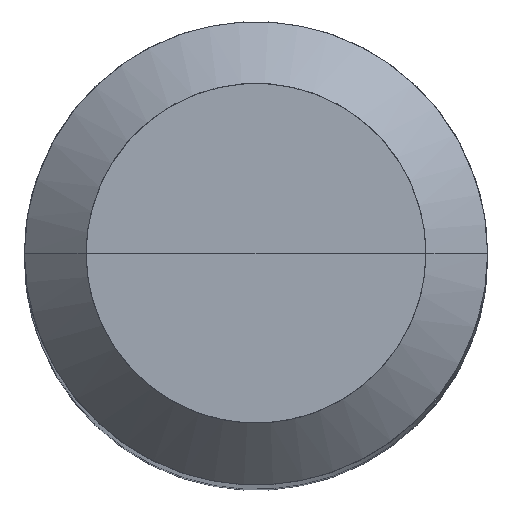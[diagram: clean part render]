
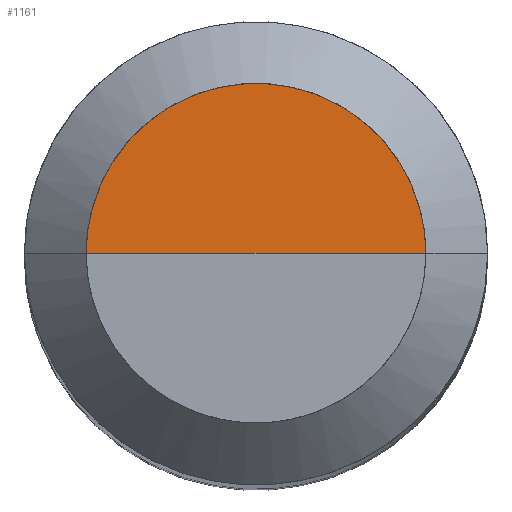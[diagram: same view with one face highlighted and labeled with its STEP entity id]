
A CAD part, top view. The second image highlights one B-rep face of the part: STEP entity #1161.
In plain terms, the highlighted free-form (B-spline) face has degree [1, 2] with [2, 5] control points.
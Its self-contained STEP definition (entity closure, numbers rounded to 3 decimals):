
#962=CARTESIAN_POINT('',(2.2,0.0,30.0));
#963=CARTESIAN_POINT('',(2.2,2.2,30.0));
#964=CARTESIAN_POINT('',(0.0,2.2,30.0));
#965=CARTESIAN_POINT('',(-2.2,2.2,30.0));
#966=CARTESIAN_POINT('',(-2.2,0.0,30.0));
#967=CARTESIAN_POINT('',(0.0,0.0,30.0));
#1146=(
BOUNDED_SURFACE()
B_SPLINE_SURFACE(1,2,(
(#962,#963,#964,#965,#966),
(#967,#967,#967,#967,#967)
), .UNSPECIFIED.,.F.,.F.,.F.)
B_SPLINE_SURFACE_WITH_KNOTS((2,2),(3,2,3),(
0.0,1.0),(
0.0,0.5,1.0), .UNSPECIFIED.)
GEOMETRIC_REPRESENTATION_ITEM()
RATIONAL_B_SPLINE_SURFACE(((1.0,0.707,1.0,0.707,1.0),
(1.0,0.707,1.0,0.707,1.0)
))
REPRESENTATION_ITEM('')
SURFACE()
);
#1147=(
BOUNDED_CURVE()
B_SPLINE_CURVE(2,(#966,#965,#964,#963,#962),.UNSPECIFIED.,.F.,.F.)
B_SPLINE_CURVE_WITH_KNOTS((3,2,3),
(0.0,0.5,1.0),.UNSPECIFIED.)
CURVE()
GEOMETRIC_REPRESENTATION_ITEM()
RATIONAL_B_SPLINE_CURVE((1.0,0.707,1.0,0.707,1.0))
REPRESENTATION_ITEM('')
);
#1148=(
BOUNDED_CURVE()
B_SPLINE_CURVE(1,(#962,#967),.UNSPECIFIED.,.F.,.F.)
B_SPLINE_CURVE_WITH_KNOTS((2,2),
(0.0,1.0),.UNSPECIFIED.)
CURVE()
GEOMETRIC_REPRESENTATION_ITEM()
RATIONAL_B_SPLINE_CURVE((1.0,1.0))
REPRESENTATION_ITEM('')
);
#1149=(
BOUNDED_CURVE()
B_SPLINE_CURVE(1,(#967,#966),.UNSPECIFIED.,.F.,.F.)
B_SPLINE_CURVE_WITH_KNOTS((2,2),
(0.0,1.0),.UNSPECIFIED.)
CURVE()
GEOMETRIC_REPRESENTATION_ITEM()
RATIONAL_B_SPLINE_CURVE((1.0,1.0))
REPRESENTATION_ITEM('')
);
#1150=VERTEX_POINT('',#962);
#1151=VERTEX_POINT('',#966);
#1152=VERTEX_POINT('',#967);
#1153=EDGE_CURVE('',#1151,#1150,#1147,.T.);
#1154=EDGE_CURVE('',#1150,#1152,#1148,.T.);
#1155=EDGE_CURVE('',#1152,#1151,#1149,.T.);
#1156=ORIENTED_EDGE('',*,*,#1153,.T.);
#1157=ORIENTED_EDGE('',*,*,#1154,.T.);
#1158=ORIENTED_EDGE('',*,*,#1155,.T.);
#1159=EDGE_LOOP('',(#1156,#1157,#1158));
#1160=FACE_OUTER_BOUND('',#1159,.T.);
#1161=ADVANCED_FACE('',(#1160),#1146,.T.);
